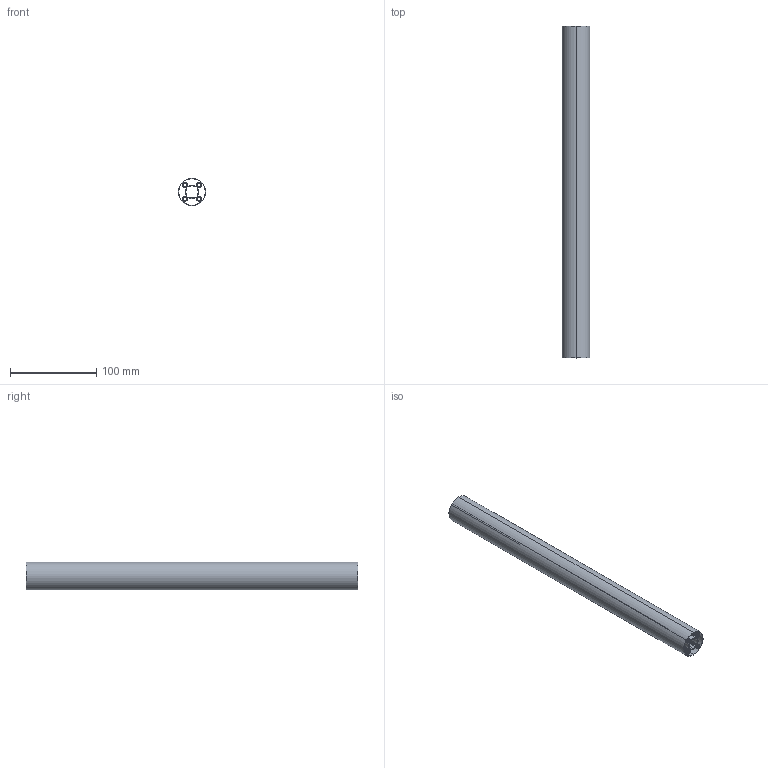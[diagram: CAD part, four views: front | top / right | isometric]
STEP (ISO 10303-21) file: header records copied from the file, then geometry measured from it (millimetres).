
FILE_DESCRIPTION (( 'STEP AP203' ), '1' );
FILE_NAME ('4103-0032-0384.STEP', '2022-09-13T20:55:06', ( '' ), ( '' ), 'SwSTEP 2.0', 'SolidWorks 2016', '' );
FILE_SCHEMA (( 'CONFIG_CONTROL_DESIGN' ));
Length unit declared in the file: millimetre
Products named in the file (1): 4103-0032-0384
Bounding box: 31.95 x 384 x 31.95 mm (x, y, z)
Volume: 64854.9 mm3; surface area: 152761.4 mm2
Topology: 1 solids, 1 shells, 781 faces, 2333 edges, 1554 vertices
Faces by surface type: cylinder 711, plane 34, cone 20, bspline 16
Entity records: 50002 total; most frequent: CARTESIAN_POINT 32717, ORIENTED_EDGE 4666, DIRECTION 2715, EDGE_CURVE 2333, VERTEX_POINT 1554, AXIS2_PLACEMENT_3D 960, EDGE_LOOP 799, LINE 795
